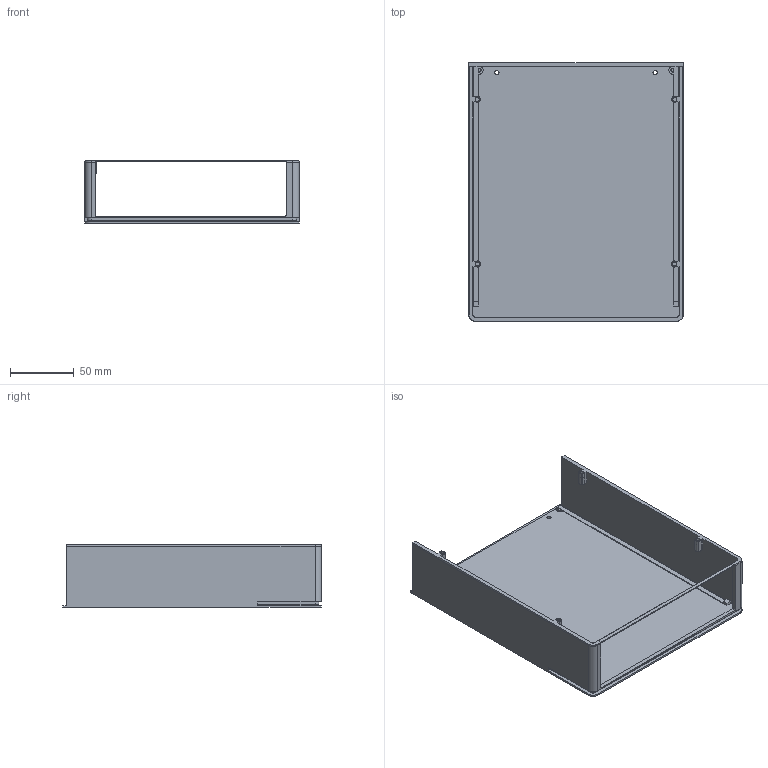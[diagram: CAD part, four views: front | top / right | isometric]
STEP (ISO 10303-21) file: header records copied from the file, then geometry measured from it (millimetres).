
FILE_DESCRIPTION(('Open CASCADE Model'),'2;1');
FILE_NAME('Open CASCADE Shape Model','2026-11-07T15:25:36',('Author'),( 'Open CASCADE'),'Open CASCADE STEP processor 7.9','Open CASCADE 7.9' ,'Unknown');
FILE_SCHEMA(('AUTOMOTIVE_DESIGN { 1 0 10303 214 1 1 1 1 }'));
Length unit declared in the file: millimetre
Products named in the file (1): Open CASCADE STEP translator 7.9 1
Bounding box: 168 x 203 x 49.2 mm (x, y, z)
Volume: 156708.7 mm3; surface area: 113379.4 mm2
Topology: 1 solids, 1 shells, 117 faces, 326 edges, 216 vertices
Faces by surface type: plane 76, cylinder 39, revolution 2
Full cylindrical faces by diameter (mm): 3.2 x4, 3.3 x2
Entity records: 8091 total; most frequent: CARTESIAN_POINT 1880, DIRECTION 1059, ORIENTED_EDGE 652, PCURVE 652, DEFINITIONAL_REPRESENTATION 652, LINE 618, VECTOR 618, EDGE_CURVE 326
